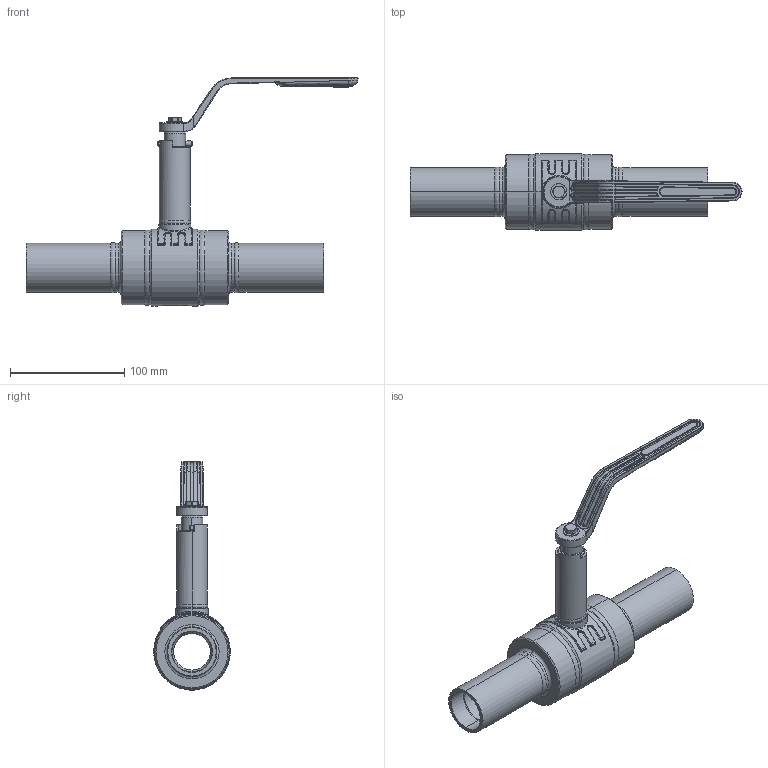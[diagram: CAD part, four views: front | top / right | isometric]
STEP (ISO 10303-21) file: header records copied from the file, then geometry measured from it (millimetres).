
FILE_DESCRIPTION((''),'2;1');
FILE_NAME('KHMO-S-V-H-032P040-VI_SW0001','2022-10-19T08:24:25',('jeitlers'),('KLINGER'),'CREO PARAMETRIC BY PTC INC, 2020184','CREO PARAMETRIC BY PTC INC, 2020184','');
FILE_SCHEMA(('AUTOMOTIVE_DESIGN { 1 0 10303 214 1 1 1 1 }'));
Length unit declared in the file: millimetre
Products named in the file (1): KHMO-S-V-H-032P040-VI_SW0001
Bounding box: 290 x 67 x 199.3 mm (x, y, z)
Volume: 351827.3 mm3; surface area: 126862.5 mm2
Topology: 1 solids, 1 shells, 716 faces, 1617 edges, 922 vertices
Faces by surface type: cylinder 229, bspline 142, plane 125, torus 109, cone 98, sphere 8, extrusion 5
Entity records: 39942 total; most frequent: CARTESIAN_POINT 23625, ORIENTED_EDGE 3230, DIRECTION 3193, EDGE_CURVE 1615, AXIS2_PLACEMENT_3D 1335, VERTEX_POINT 922, EDGE_LOOP 757, CIRCLE 753
